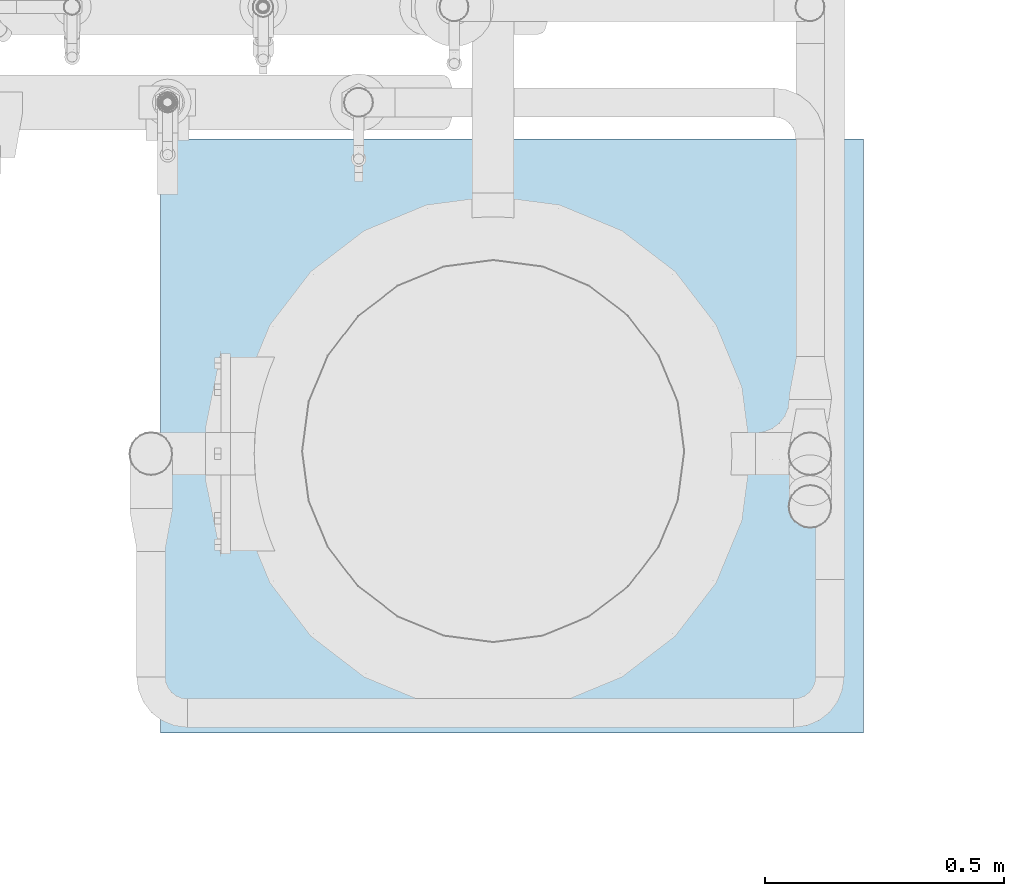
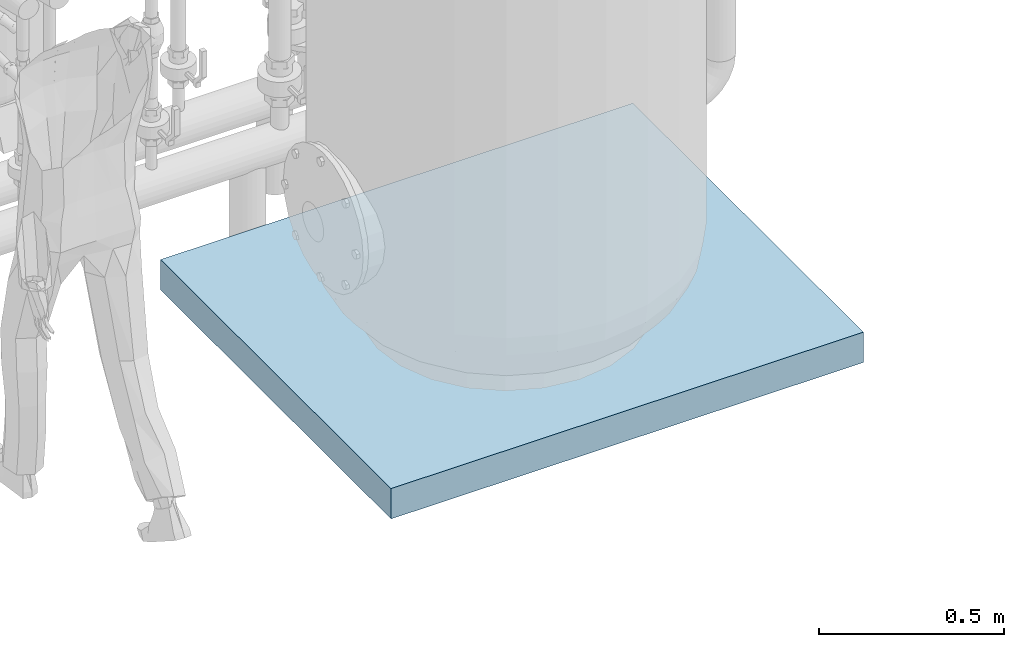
# One storey, part 1 of 374: 1 slab.
"""IFC2X3 building model written with IfcOpenShell, lengths in metres."""

import ifcopenshell
import ifcopenshell.guid

model = None  # the IFC model being written
_history = None  # IfcOwnerHistory: only IFC2X3 demands one
_inside = {}  # id of a spatial element -> (the spatial element, [elements in it])
_under = {}  # id of a project, library or spatial element -> (it, [spatial elements below it])
_declared = {}  # id of a project -> (the project, [libraries it declares])
_typed = {}  # id of a type object -> (the type object, [elements of that type])
_made_of = {}  # id of a material, layer set ... -> (it, [elements and type objects made of it])


def new_model(schema):
    """Start an empty IFC model of exactly this schema.

    Asked for "IFC4X3", IfcOpenShell would pick the latest addendum, in which some entities
    have other attributes; the version numbers below select the first issue.
    IFC2X3 requires an IfcOwnerHistory on every rooted entity: one is made here for all.
    """
    global model, _history
    if schema == "IFC4X3":
        model = ifcopenshell.file(schema_version=(4, 3, 0, 0))
    else:
        model = ifcopenshell.file(schema=schema)
    _inside.clear()
    _under.clear()
    _declared.clear()
    _typed.clear()
    _made_of.clear()
    _history = None
    if model.schema == "IFC2X3":
        org = make("IfcOrganization", Name="unknown")
        user = make(
            "IfcPersonAndOrganization",
            ThePerson=make("IfcPerson", FamilyName="unknown"),
            TheOrganization=org,
        )
        app = make(
            "IfcApplication",
            ApplicationDeveloper=org,
            Version="unknown",
            ApplicationFullName="unknown",
            ApplicationIdentifier="unknown",
        )
        _history = make(
            "IfcOwnerHistory",
            OwningUser=user,
            OwningApplication=app,
            ChangeAction="ADDED",
            CreationDate=0,
        )
    return model


def make(cls, **values):
    """One entity of the class cls with the attributes given. An attribute that is None is left unset."""
    return model.create_entity(
        cls, **{name: value for name, value in values.items() if value is not None}
    )


def rooted(cls, **values):
    """An entity with a GlobalId (a new one), such as an element, a storey or a relation."""
    return make(cls, GlobalId=ifcopenshell.guid.new(), OwnerHistory=_history, **values)


def si_unit(unit_type, name, prefix=None):
    """IfcSIUnit, for example si_unit("LENGTHUNIT", "METRE", prefix="MILLI")."""
    return make("IfcSIUnit", UnitType=unit_type, Prefix=prefix, Name=name)


def assignment(units):
    """IfcUnitAssignment: the units of a project."""
    return None if units is None else make("IfcUnitAssignment", Units=units)


def point(xyz):
    """IfcCartesianPoint."""
    return None if xyz is None else make("IfcCartesianPoint", Coordinates=xyz)


def direction(xyz):
    """IfcDirection."""
    return None if xyz is None else make("IfcDirection", DirectionRatios=xyz)


def frame(location, z_axis=None, x_axis=None):
    """IfcAxis2Placement3D, a coordinate frame: its origin and axes. An axis left out is left unset."""
    return make(
        "IfcAxis2Placement3D",
        Location=point(location),
        Axis=direction(z_axis),
        RefDirection=direction(x_axis),
    )


def frame_2d(location, x_axis=None):
    """IfcAxis2Placement2D, a coordinate frame in the plane: its origin and x axis."""
    return make(
        "IfcAxis2Placement2D", Location=point(location), RefDirection=direction(x_axis)
    )


def origin():
    """The frame at (0, 0, 0) with its axes left unset."""
    return frame((0.0, 0.0, 0.0))


def place(relative_to, where):
    """IfcLocalPlacement: puts the frame where relative to a parent placement (None: the world)."""
    return make(
        "IfcLocalPlacement", PlacementRelTo=relative_to, RelativePlacement=where
    )


def context(
    kind, dimensions, precision=None, world=None, true_north=None, identifier=None
):
    """IfcGeometricRepresentationContext, for example the 3D "Model" context."""
    return make(
        "IfcGeometricRepresentationContext",
        ContextIdentifier=identifier,
        ContextType=kind,
        CoordinateSpaceDimension=dimensions,
        Precision=precision,
        WorldCoordinateSystem=world,
        TrueNorth=true_north,
    )


def subcontext(parent, identifier, kind, view, scale=None):
    """IfcGeometricRepresentationSubContext, for example "Body" below "Model"."""
    return make(
        "IfcGeometricRepresentationSubContext",
        ContextIdentifier=identifier,
        ContextType=kind,
        ParentContext=parent,
        TargetScale=scale,
        TargetView=view,
    )


def project(units=None, contexts=None):
    """IfcProject with its units and contexts."""
    return rooted(
        "IfcProject",
        Name="project",
        RepresentationContexts=contexts,
        UnitsInContext=assignment(units),
    )


def spatial(cls, under=None, at=None, **own):
    """A site, building, storey or space (cls), placed at a placement, below another one or the project."""
    s = rooted(cls, ObjectPlacement=at, **own)
    if under is not None:
        _under.setdefault(under.id(), (under, []))[1].append(s)
    return s


def profile(cls, at=None, kind="AREA", **sizes):
    """A parametric profile (cls). Its sizes go by their IFC names, for example OverallWidth=200.0."""
    return make(cls, ProfileType=kind, Position=at, **sizes)


def rectangle(**sizes):
    """IfcRectangleProfileDef."""
    return profile("IfcRectangleProfileDef", **sizes)


def extrude(swept, where, along, depth):
    """IfcExtrudedAreaSolid: the profile swept, set in the frame where, extruded along a direction by depth."""
    return make(
        "IfcExtrudedAreaSolid",
        SweptArea=swept,
        Position=where,
        ExtrudedDirection=direction(along),
        Depth=depth,
    )


def shape(context_of_items, identifier, shape_type, items):
    """IfcShapeRepresentation: the items that make up one representation, for example the "Body"."""
    return make(
        "IfcShapeRepresentation",
        ContextOfItems=context_of_items,
        RepresentationIdentifier=identifier,
        RepresentationType=shape_type,
        Items=items,
    )


def material(Name=None, Category=None):
    """IfcMaterial."""
    return make("IfcMaterial", Name=Name, Category=Category)


def made_of(thing, what):
    """Note that an element or type object is made of a material, layer set ...; save() writes the relation."""
    if what is not None:
        _made_of.setdefault(what.id(), (what, []))[1].append(thing)
    return thing


def type_object(cls, material=None, **own):
    """A type object (cls), such as IfcWallType, which elements share."""
    return made_of(rooted(cls, **own), material)


def element(
    cls,
    number,
    at=None,
    inside=None,
    cuts=None,
    type_object=None,
    material=None,
    context=None,
    identifier="Body",
    shape_type=None,
    held_by="IfcProductDefinitionShape",
    body=None,
    shapes=None,
    **own,
):
    """One element of the class cls, such as IfcWall. Its Tag is "e" and its number.

    at: its placement. inside: the storey or other place that contains it. cuts: it is an
    opening in that element (IfcRelVoidsElement). A single representation is given by context,
    identifier, shape_type and body (its items); several are given by shapes. held_by: the class
    of the entity that holds the representations. save() writes the other relations.
    """
    e = rooted(cls, Tag="e%d" % number, ObjectPlacement=at, **own)
    if body is not None:
        shapes = [shape(context, identifier, shape_type, body)]
    if shapes is not None:
        e.Representation = make(held_by, Representations=shapes)
    if inside is not None:
        _inside.setdefault(inside.id(), (inside, []))[1].append(e)
    if cuts is not None:
        rooted(
            "IfcRelVoidsElement", RelatingBuildingElement=cuts, RelatedOpeningElement=e
        )
    if type_object is not None:
        _typed.setdefault(type_object.id(), (type_object, []))[1].append(e)
    return made_of(e, material)


def aggregate(whole, parts):
    """IfcRelAggregates: a whole, such as a stair, and the parts it consists of."""
    return rooted("IfcRelAggregates", RelatingObject=whole, RelatedObjects=parts)


def save(model, path):
    """Write the relations noted so far, then the file.

    IfcRelAggregates (storeys below a building ...), IfcRelContainedInSpatialStructure (elements
    in a storey), IfcRelDefinesByType, IfcRelAssociatesMaterial and IfcRelDeclares: one each for
    every whole, place, type object, material and project.
    """
    for whole, parts in _under.values():
        aggregate(whole, parts)
    for where, things in _inside.values():
        rooted(
            "IfcRelContainedInSpatialStructure",
            RelatedElements=things,
            RelatingStructure=where,
        )
    for kind, things in _typed.values():
        rooted("IfcRelDefinesByType", RelatedObjects=things, RelatingType=kind)
    for what, things in _made_of.values():
        rooted("IfcRelAssociatesMaterial", RelatedObjects=things, RelatingMaterial=what)
    for by, libraries in _declared.values():
        rooted("IfcRelDeclares", RelatingContext=by, RelatedDefinitions=libraries)
    model.write(path)


model = new_model("IFC2X3")

# Units and contexts
model_context = context("Model", 3, precision=1e-05, world=origin(), true_north=direction((-0.4480736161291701, 0.8939966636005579)))
body_context = subcontext(model_context, "Body", "Model", "MODEL_VIEW")
ifc_project = project(units=[si_unit("LENGTHUNIT", "METRE"), si_unit("AREAUNIT", "SQUARE_METRE"), si_unit("VOLUMEUNIT", "CUBIC_METRE"), si_unit("PLANEANGLEUNIT", "RADIAN"), si_unit("THERMODYNAMICTEMPERATUREUNIT", "KELVIN"), si_unit("MASSUNIT", "GRAM", prefix="KILO"), si_unit("TIMEUNIT", "SECOND")], contexts=[model_context])

# Site, building, storey
site_placement = place(None, origin())
site = spatial("IfcSite", under=ifc_project, at=site_placement, Name="Site 1", CompositionType="ELEMENT")
building_placement = place(site_placement, origin())
building = spatial("IfcBuilding", under=site, at=building_placement, Name="Undefined", CompositionType="ELEMENT")
storey_placement = place(building_placement, origin())
storey = spatial("IfcBuildingStorey", under=building, at=storey_placement, Name="Rez de chauss\x8ee", CompositionType="ELEMENT", Elevation=0.0)

# Slab
ifc_material = material(Name="abc")
slab_type = type_object("IfcSlabType", Name="roof standard", PredefinedType="ROOF", material=ifc_material)
slab_placement = place(storey_placement, frame((0.0, 0.0, 0.1)))
element("IfcSlab", 1, at=slab_placement, inside=storey, type_object=slab_type, Name="Plafond ou dalle d'étage", PredefinedType="FLOOR", context=body_context, shape_type="SweptSolid", body=[
    extrude(rectangle(XDim=1.2438204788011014, YDim=1.4716554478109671, at=frame_2d((3.552713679e-15, 0.0), x_axis=(0.0, 1.0))), frame((54.37855623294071, 10.02012680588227, -0.1)), (0.0, 0.0, 1.0), 0.1),
])

save(model, "model.ifc")
